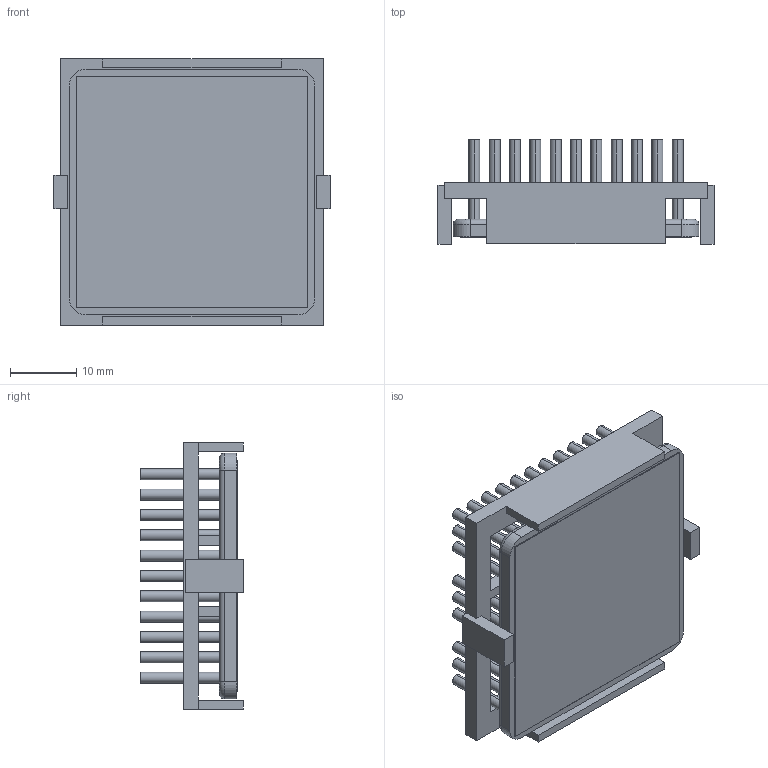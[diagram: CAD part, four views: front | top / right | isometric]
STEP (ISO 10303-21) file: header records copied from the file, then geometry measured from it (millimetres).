
FILE_DESCRIPTION (( 'STEP AP214' ), '1' );
FILE_NAME ('INM37.5002-15P-2.6O.STEP', '2023-02-21T15:42:53', ( '' ), ( '' ), 'SwSTEP 2.0', 'SolidWorks 2020', '' );
FILE_SCHEMA (( 'AUTOMOTIVE_DESIGN' ));
Length unit declared in the file: inch
Products named in the file (1): INM37.5002-15P-2.6O
Bounding box: 41.7 x 15.7 x 40.2 mm (x, y, z)
Volume: 8488.6 mm3; surface area: 15499.8 mm2
Topology: 3 solids, 3 shells, 417 faces, 886 edges, 588 vertices
Faces by surface type: cylinder 234, plane 179, torus 4
Entity records: 16915 total; most frequent: DIRECTION 2194, CARTESIAN_POINT 1892, ORIENTED_EDGE 1772, AXIS2_PLACEMENT_3D 890, EDGE_CURVE 886, VERTEX_POINT 588, EDGE_LOOP 532, CIRCLE 472
